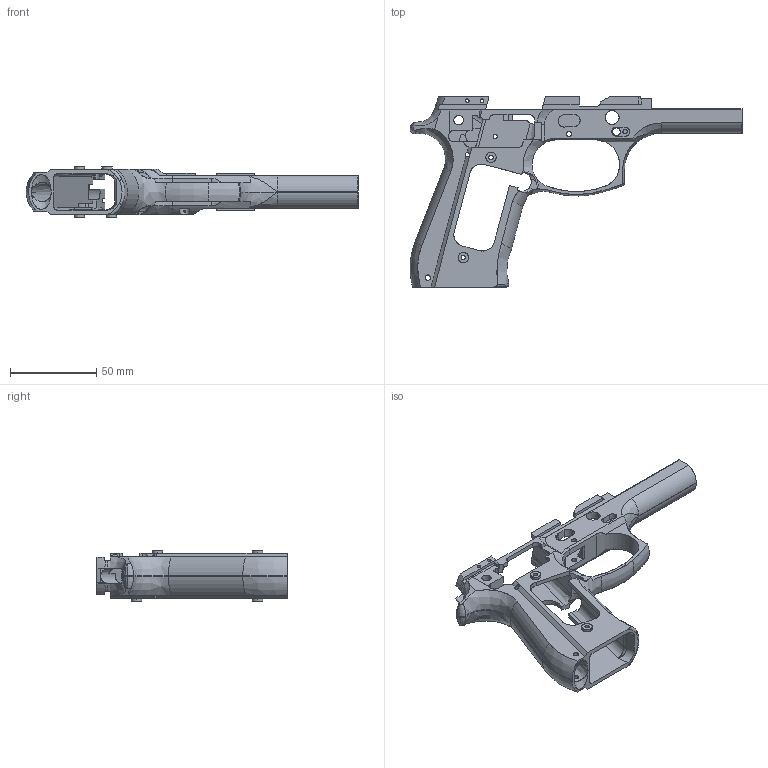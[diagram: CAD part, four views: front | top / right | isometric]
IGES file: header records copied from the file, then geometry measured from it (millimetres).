
Start section: SolidWorks IGES file using analytic representation for surfaces
Global section: file name: C:\AAA_Downloads\Gun Drawings\Guns\Beretta\Drawings\Orginal\Beretta92FS.IGS; native system: SolidWorks 2005 by SolidWorks Corporation; preprocessor: SolidWorks 2005 by SolidWorks Corporation; author: Justin; date: 050326.231225; units: inch
Bounding box: 191.99 x 110.08 x 29.13 mm (x, y, z)
Surface area: 42925 mm2 (no closed solid volume)
Topology: 0 solids, 0 shells, 409 faces, 6263 edges, 6261 vertices
Faces by surface type: bspline 252, revolution 157
